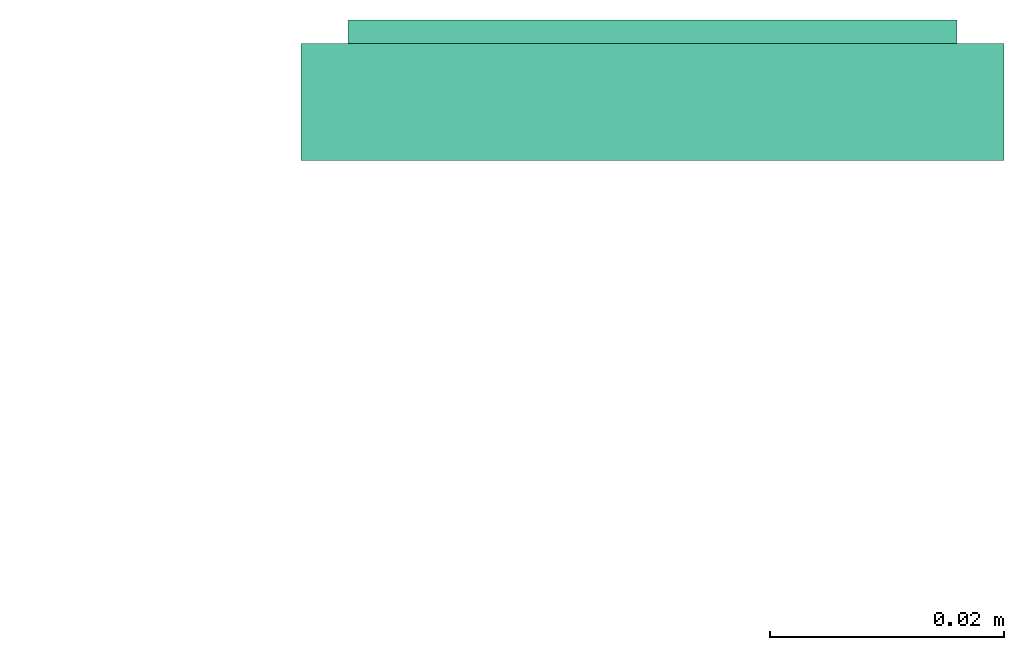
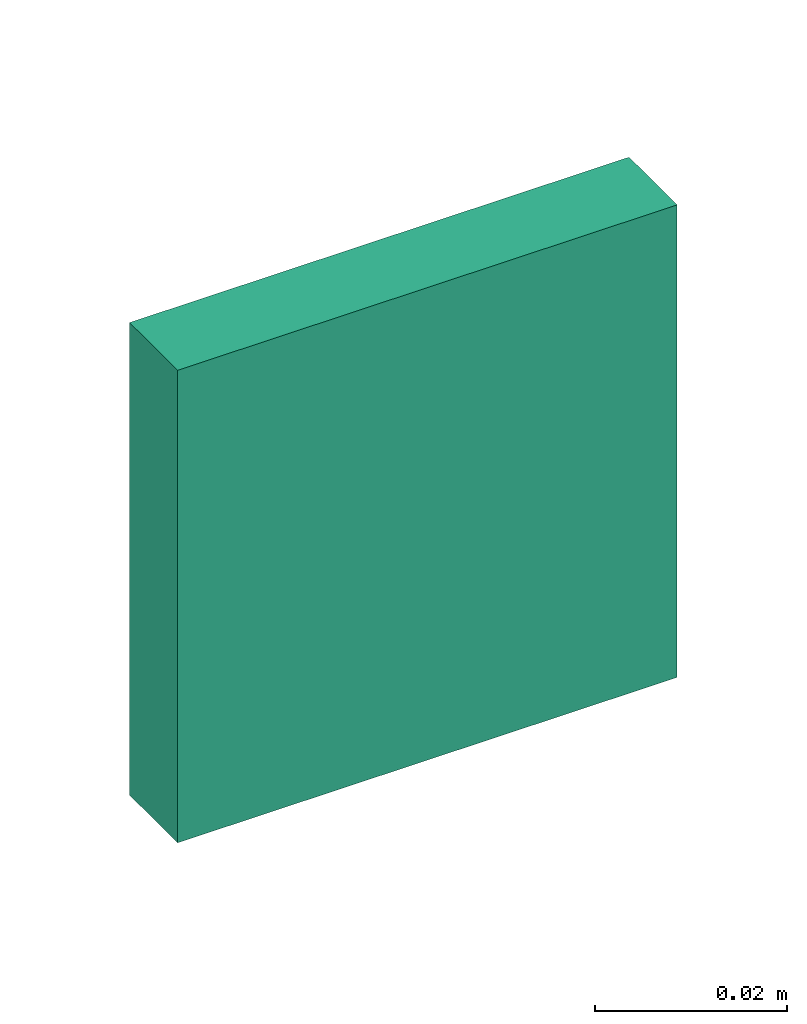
# One storey, part 4 of 5: 1 distribution control element.
"""IFC2X3 building model written with IfcOpenShell, lengths in millimetres."""

from ifc_helpers import new_model, entity, si_unit, converted_unit, derived_unit, direction, frame, origin_with_axes, place, context, subcontext, project, spatial, open_shell, surface_model, source, transform, mapped, type_object, element, save


model = new_model("IFC2X3")

# Units and contexts
model_context = context("Model", 3, precision=0.01, world=frame((0.0, 4.29681676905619e-09, 0.0)), true_north=direction((4.01073788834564e-13, 1.0)))
plan_context = context("Plan", 3, precision=0.01, world=frame((0.0, 4.29681676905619e-09, 0.0)), true_north=direction((4.01073788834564e-13, 1.0)))
body_context = subcontext(model_context, "Body", "Model", "MODEL_VIEW")
ifc_project = project(units=[converted_unit("PLANEANGLEUNIT", "DEGREE", entity("IfcPositiveLengthMeasure", 0.0174532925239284), si_unit("PLANEANGLEUNIT", "RADIAN"), dimensions=[0, 0, 0, 0, 0, 0, 0]), si_unit("AREAUNIT", "SQUARE_METRE"), si_unit("LENGTHUNIT", "METRE", prefix="MILLI"), si_unit("MASSUNIT", "GRAM", prefix="KILO"), si_unit("POWERUNIT", "WATT"), si_unit("PRESSUREUNIT", "PASCAL", prefix="KILO"), si_unit("FORCEUNIT", "NEWTON", prefix="KILO"), si_unit("ELECTRICVOLTAGEUNIT", "VOLT"), si_unit("ELECTRICCURRENTUNIT", "AMPERE"), si_unit("THERMODYNAMICTEMPERATUREUNIT", "DEGREE_CELSIUS"), si_unit("TIMEUNIT", "SECOND"), si_unit("VOLUMEUNIT", "CUBIC_METRE"), derived_unit("LINEARVELOCITYUNIT", [(si_unit("LENGTHUNIT", "METRE"), 1), (si_unit("TIMEUNIT", "SECOND"), -1)]), derived_unit("VOLUMETRICFLOWRATEUNIT", [(si_unit("VOLUMEUNIT", "CUBIC_METRE"), 1), (si_unit("TIMEUNIT", "SECOND"), -1)]), derived_unit("THERMALTRANSMITTANCEUNIT", [(si_unit("POWERUNIT", "WATT"), 1), (si_unit("THERMODYNAMICTEMPERATUREUNIT", "KELVIN"), -1), (si_unit("AREAUNIT", "SQUARE_METRE"), -1)]), derived_unit("SOUNDPRESSUREUNIT", [(si_unit("PRESSUREUNIT", "PASCAL"), 1)])], contexts=[model_context, plan_context])

# Site, building, storey
site_placement = place(None, frame((0.0, -4.29681676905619e-09, 0.0), z_axis=(0.0, 0.0, 1.0), x_axis=(1.0, 0.0, 0.0)))
site = spatial("IfcSite", under=ifc_project, at=site_placement, Name="ENGM", CompositionType="ELEMENT")
building_placement = place(site_placement, frame((0.0, 4.29681676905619e-09, 0.0), z_axis=(0.0, 0.0, 1.0), x_axis=(1.0, 0.0, 0.0)))
building = spatial("IfcBuilding", under=site, at=building_placement, Name="TI", CompositionType="ELEMENT")
storey_placement = place(building_placement, frame((0.0, 0.0, 210900.0), z_axis=(0.0, 0.0, 1.0), x_axis=(1.0, 0.0, 0.0)))
storey = spatial("IfcBuildingStorey", under=building, at=storey_placement, Name="Nivå F", CompositionType="ELEMENT", Elevation=210900.0)

# Distribution control element
alarm_type = type_object("IfcAlarmType", Name="Switch with one push button", PredefinedType="NOTDEFINED")
shared_shape = source(origin_with_axes(), body_context, "Body", "SurfaceModel", [
    surface_model("IfcShellBasedSurfaceModel", [(-30.0, 10.0, 30.0), (-30.0, 0.0, 30.0), (30.0, 0.0, 30.0), (30.0, 10.0, 30.0), (30.0, 10.0, -30.0), (30.0, 0.0, -30.0), (-30.0, 0.0, -30.0), (-30.0, 10.0, -30.0), (-26.0, 12.0, 26.0), (-26.0, 10.0, 26.0), (26.0, 12.0, 26.0), (26.0, 10.0, 26.0), (26.0, 12.0, -26.0), (26.0, 10.0, -26.0), (-26.0, 12.0, -26.0), (-26.0, 10.0, -26.0)], [open_shell([[[0, 1, 2]], [[2, 3, 0]], [[4, 5, 6]], [[6, 7, 4]], [[2, 1, 6]], [[6, 5, 2]], [[3, 2, 5]], [[5, 4, 3]], [[0, 3, 4]], [[4, 7, 0]], [[1, 0, 7]], [[7, 6, 1]], [[8, 9, 10]], [[11, 10, 9]], [[12, 13, 14]], [[15, 14, 13]], [[11, 9, 15]], [[15, 13, 11]], [[10, 11, 12]], [[13, 12, 11]], [[8, 10, 12]], [[12, 14, 8]], [[9, 8, 15]], [[14, 15, 8]]])]),
])
distribution_control_element_placement = place(storey_placement, frame((599636.97287, 578155.96584, 870.0), z_axis=(0.0, 0.0, 1.0), x_axis=(1.0, 0.0, 0.0)))
element("IfcDistributionControlElement", 1, at=distribution_control_element_placement, inside=storey, type_object=alarm_type, Name="Switch with one push button", context=body_context, shape_type="MappedRepresentation", body=[
    mapped(shared_shape, transform((0.0, 0.0, 0.0), scale=1.0)),
])

save(model, "model.ifc")
